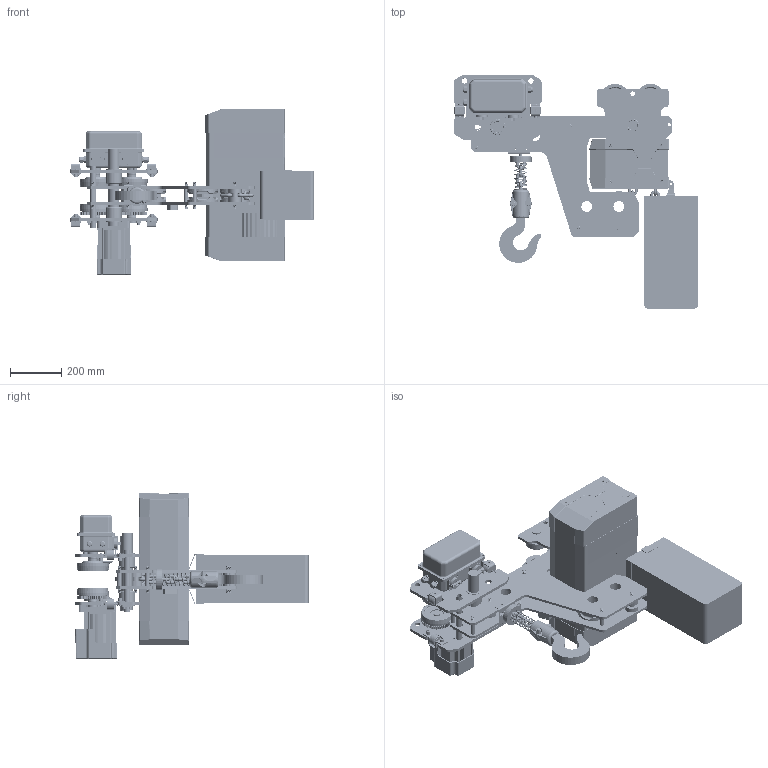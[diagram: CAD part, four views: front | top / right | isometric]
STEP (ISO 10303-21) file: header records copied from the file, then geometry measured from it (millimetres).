
FILE_DESCRIPTION(/* description */ ('CAx-IF Rec.Pracs.---Representation and Presentation of Product Manufacturing Information (PMI)---4.0---2014-10-13','CAx-IF Rec.Pracs.---3D Tessellated Geometry---0.4---2014-09-14','2;1'),/* implementation_level */ '2;1');
FILE_NAME(/* name */ 'YJ 03-01 超低吊',/* time_stamp */ '2026-06-03T11:02:12+08:00',/* author */ (''),/* organization */ (''),/* preprocessor_version */ 'ST-DEVELOPER v16.7',/* originating_system */ $,/* authorisation */ $);
FILE_SCHEMA (('AP242_MANAGED_MODEL_BASED_3D_ENGINEERING_MIM_LF { 1 0 10303 442 20130219 1 4 }'));
Products named in the file (1): YJ 03-01 超低吊
Bounding box: 950.82 x 908.97 x 645.3 mm (x, y, z)
Volume: 39781533.3 mm3; surface area: 5513581.4 mm2
Topology: 37 solids, 64 shells, 7271 faces, 18674 edges, 11563 vertices
Faces by surface type: plane 2726, cylinder 2401, bspline 1080, torus 593, cone 376, sphere 95
Full cylindrical faces by diameter (mm): 2 x4, 2.4 x8, 2.5 x4, 3 x2, 3.2 x4, 3.5 x7, 4.2 x1, 5 x14, 5.326 x2, 5.7 x4, 5.795 x12, 6 x7, 6.3 x8, 6.4 x10, 6.5 x8, 6.6 x8, 6.791 x1, 6.8 x4, 7 x1, 7.46 x1, 8.5 x4, 8.8 x4, 9 x2, 9.045 x2, 9.732 x20, 10 x16, 10.3 x13, 10.5 x4, 10.9 x8, 11.2 x30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
Entity records: 249890 total; most frequent: CARTESIAN_POINT 86377, ORIENTED_EDGE 34146, DIRECTION 31421, EDGE_CURVE 17073, AXIS2_PLACEMENT_3D 11432, VERTEX_POINT 11032, FACE_BOUND 8783, EDGE_LOOP 8759
